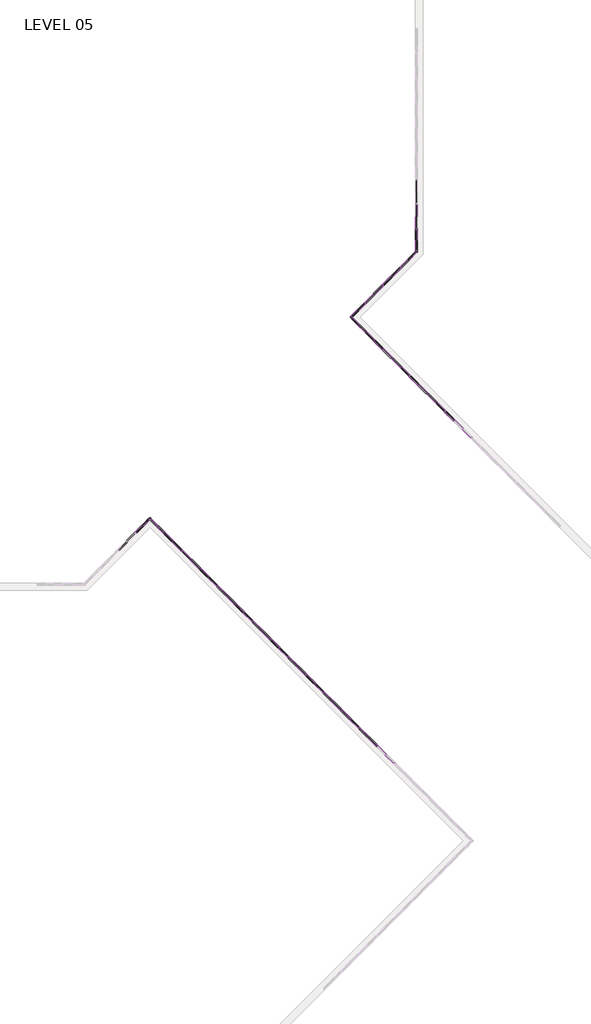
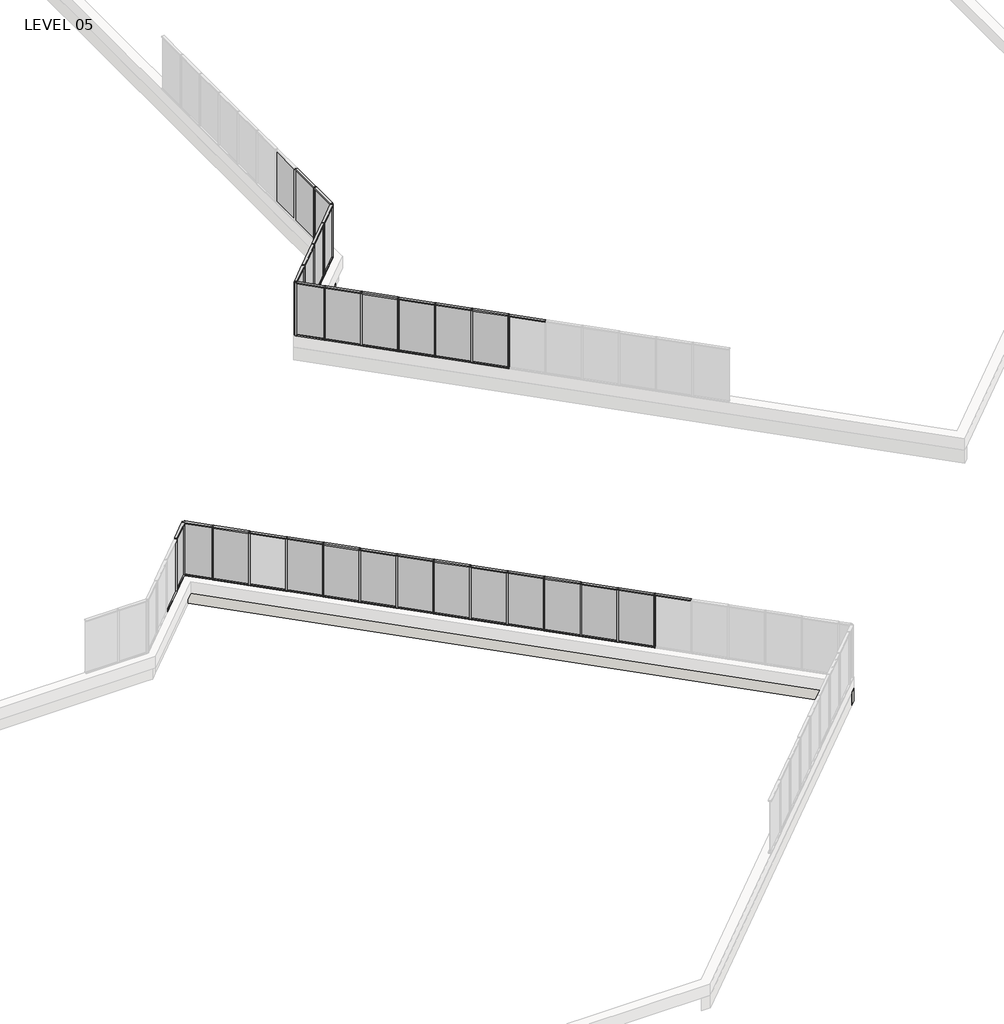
# One storey, part 9 of 17: 84 members, 26 plates, 2 walls.
"""IFC4 building model written with IfcOpenShell, lengths in millimetres."""

from ifc_helpers import new_model, si_unit, frame, origin, place, context, project, spatial, polyline, outline, extrude, faceted_brep, transform, mapped, element, save
from components import member_5247f267, member_e44af9ab, member_800970d4, member_910c08c9, member_dd9f6d43, member_45eb7f2e, plate_67294edd, plate_88df3e37, plate_c3b8b83d, plate_6ecefdb5, plate_9c66726c, plate_129ab9d0

model = new_model("IFC4")

# Units and contexts
model_context = context("Model", 3, world=origin())
ifc_project = project(units=[si_unit("LENGTHUNIT", "METRE", prefix="MILLI")], contexts=[model_context])

# Site, building, storey
site = spatial("IfcSite", under=ifc_project)
building = spatial("IfcBuilding", under=site)
storey = spatial("IfcBuildingStorey", under=building, Name="LEVEL 05", Elevation=15824.2)

# Members
placement = place(None, origin())
member_shape = member_5247f267(model_context)
element("IfcMember", 1, ObjectType="Rectangular Mullion : 2\" x 4.5\" rectangular", at=placement, inside=storey, context=model_context, shape_type="MappedRepresentation", body=[
    mapped(member_shape, transform((58839.186821, 16282.6021867, 15824.2), x_axis=(0.0, 0.0, -1.0), y_axis=(0.707106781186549, 0.7071067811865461, 0.0), z_axis=(0.707106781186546, -0.7071067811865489, 0.0))),
])
element("IfcMember", 2, ObjectType="Rectangular Mullion : 2\" x 4.5\" rectangular", at=placement, inside=storey, context=model_context, shape_type="MappedRepresentation", body=[
    mapped(member_shape, transform((57761.5560865, 17360.2329212, 15824.2), x_axis=(0.0, 0.0, -1.0), y_axis=(0.707106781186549, 0.7071067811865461, 0.0), z_axis=(0.7071067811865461, -0.707106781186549, 0.0))),
])
element("IfcMember", 3, ObjectType="Rectangular Mullion : 2\" x 4.5\" rectangular", at=placement, inside=storey, context=model_context, shape_type="MappedRepresentation", body=[
    mapped(member_shape, transform((56683.925352, 18437.8636558, 15824.2), x_axis=(0.0, 0.0, -1.0), y_axis=(0.707106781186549, 0.7071067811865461, 0.0), z_axis=(0.707106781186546, -0.7071067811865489, 0.0))),
])
element("IfcMember", 4, ObjectType="Rectangular Mullion : 2\" x 4.5\" rectangular", at=placement, inside=storey, context=model_context, shape_type="MappedRepresentation", body=[
    mapped(member_shape, transform((53451.3904937, 21670.3985141, 15824.2), x_axis=(0.0, 0.0, -1.0), y_axis=(0.7071067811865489, 0.7071067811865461, 0.0), z_axis=(0.7071067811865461, -0.7071067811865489, 0.0))),
])
element("IfcMember", 5, ObjectType="Rectangular Mullion : 2\" x 4.5\" rectangular", at=placement, inside=storey, context=model_context, shape_type="MappedRepresentation", body=[
    mapped(member_shape, transform((52373.7597592, 22748.0292486, 15824.2), x_axis=(0.0, 0.0, -1.0), y_axis=(0.7071067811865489, 0.7071067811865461, 0.0), z_axis=(0.7071067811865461, -0.7071067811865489, 0.0))),
])
element("IfcMember", 6, ObjectType="Rectangular Mullion : 2\" x 4.5\" rectangular", at=placement, inside=storey, context=model_context, shape_type="MappedRepresentation", body=[
    mapped(member_shape, transform((51296.1290246, 23825.6599831, 15824.2), x_axis=(0.0, 0.0, -1.0), y_axis=(0.707106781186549, 0.7071067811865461, 0.0), z_axis=(0.707106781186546, -0.7071067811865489, 0.0))),
])
element("IfcMember", 7, ObjectType="Rectangular Mullion : 2\" x 4.5\" rectangular", at=placement, inside=storey, context=model_context, shape_type="MappedRepresentation", body=[
    mapped(member_shape, transform((50218.4982901, 24903.2907176, 15824.2), x_axis=(0.0, 0.0, -1.0), y_axis=(0.707106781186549, 0.7071067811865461, 0.0), z_axis=(0.707106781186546, -0.7071067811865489, 0.0))),
])
element("IfcMember", 8, ObjectType="Rectangular Mullion : 2\" x 4.5\" rectangular", at=placement, inside=storey, context=model_context, shape_type="MappedRepresentation", body=[
    mapped(member_shape, transform((49140.8675556, 25980.9214522, 15824.2), x_axis=(0.0, 0.0, -1.0), y_axis=(0.707106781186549, 0.7071067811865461, 0.0), z_axis=(0.7071067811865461, -0.707106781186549, 0.0))),
])
element("IfcMember", 9, ObjectType="Rectangular Mullion : 2\" x 4.5\" rectangular", at=placement, inside=storey, context=model_context, shape_type="MappedRepresentation", body=[
    mapped(member_shape, transform((48063.236821, 27058.5521867, 15824.2), x_axis=(0.0, 0.0, -1.0), y_axis=(0.7071067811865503, 0.7071067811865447, 0.0), z_axis=(0.7071067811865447, -0.7071067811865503, 0.0))),
])
element("IfcMember", 10, ObjectType="Rectangular Mullion : 2\" x 4.5\" rectangular", at=placement, inside=storey, context=model_context, shape_type="MappedRepresentation", body=[
    mapped(member_shape, transform((46985.6060865, 28136.1829212, 15824.2), x_axis=(0.0, 0.0, -1.0), y_axis=(0.7071067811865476, 0.7071067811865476, 0.0), z_axis=(0.7071067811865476, -0.7071067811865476, 0.0))),
])
element("IfcMember", 11, ObjectType="Rectangular Mullion : 2\" x 4.5\" rectangular", at=placement, inside=storey, context=model_context, shape_type="MappedRepresentation", body=[
    mapped(member_shape, transform((44188.0075145, 29177.8965222, 15824.2), x_axis=(0.0, 0.0, -1.0), y_axis=(-0.7071067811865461, 0.7071067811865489, 0.0), z_axis=(0.7071067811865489, 0.7071067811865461, 0.0))),
])
element("IfcMember", 12, ObjectType="Rectangular Mullion : 2\" x 4.5\" rectangular", at=placement, inside=storey, context=model_context, shape_type="MappedRepresentation", body=[
    mapped(member_shape, transform((58875.1078455, 16246.6811622, 18415.0), x_axis=(0.0, 0.0, 1.0), y_axis=(0.707106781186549, 0.7071067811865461, 0.0), z_axis=(-0.707106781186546, 0.7071067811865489, 0.0))),
])
element("IfcMember", 13, ObjectType="Rectangular Mullion : 2\" x 4.5\" rectangular", at=placement, inside=storey, context=model_context, shape_type="MappedRepresentation", body=[
    mapped(member_shape, transform((57797.477111, 17324.3118967, 18415.0), x_axis=(0.0, 0.0, 1.0), y_axis=(0.707106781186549, 0.7071067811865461, 0.0), z_axis=(-0.707106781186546, 0.7071067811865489, 0.0))),
])
element("IfcMember", 14, ObjectType="Rectangular Mullion : 2\" x 4.5\" rectangular", at=placement, inside=storey, context=model_context, shape_type="MappedRepresentation", body=[
    mapped(member_shape, transform((56719.8463765, 18401.9426313, 18415.0), x_axis=(0.0, 0.0, 1.0), y_axis=(0.7071067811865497, 0.7071067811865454, 0.0), z_axis=(-0.7071067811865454, 0.7071067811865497, 0.0))),
])
element("IfcMember", 15, ObjectType="Rectangular Mullion : 2\" x 4.5\" rectangular", at=placement, inside=storey, context=model_context, shape_type="MappedRepresentation", body=[
    mapped(member_shape, transform((55642.2156419, 19479.5733658, 18415.0), x_axis=(0.0, 0.0, 1.0), y_axis=(0.7071067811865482, 0.7071067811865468, 0.0), z_axis=(-0.7071067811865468, 0.7071067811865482, 0.0))),
])
element("IfcMember", 16, ObjectType="Rectangular Mullion : 2\" x 4.5\" rectangular", at=placement, inside=storey, context=model_context, shape_type="MappedRepresentation", body=[
    mapped(member_shape, transform((52409.6807836, 22712.1082241, 18415.0), x_axis=(0.0, 0.0, 1.0), y_axis=(0.7071067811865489, 0.7071067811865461, 0.0), z_axis=(-0.7071067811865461, 0.7071067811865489, 0.0))),
])
element("IfcMember", 17, ObjectType="Rectangular Mullion : 2\" x 4.5\" rectangular", at=placement, inside=storey, context=model_context, shape_type="MappedRepresentation", body=[
    mapped(member_shape, transform((51332.0500491, 23789.7389586, 18415.0), x_axis=(0.0, 0.0, 1.0), y_axis=(0.7071067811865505, 0.7071067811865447, 0.0), z_axis=(-0.7071067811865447, 0.7071067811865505, 0.0))),
])
element("IfcMember", 18, ObjectType="Rectangular Mullion : 2\" x 4.5\" rectangular", at=placement, inside=storey, context=model_context, shape_type="MappedRepresentation", body=[
    mapped(member_shape, transform((50254.4193146, 24867.3696932, 18415.0), x_axis=(0.0, 0.0, 1.0), y_axis=(0.7071067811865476, 0.7071067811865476, 0.0), z_axis=(-0.7071067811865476, 0.7071067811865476, 0.0))),
])
element("IfcMember", 19, ObjectType="Rectangular Mullion : 2\" x 4.5\" rectangular", at=placement, inside=storey, context=model_context, shape_type="MappedRepresentation", body=[
    mapped(member_shape, transform((49176.7885801, 25945.0004277, 18415.0), x_axis=(0.0, 0.0, 1.0), y_axis=(0.707106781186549, 0.7071067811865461, 0.0), z_axis=(-0.707106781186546, 0.7071067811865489, 0.0))),
])
element("IfcMember", 20, ObjectType="Rectangular Mullion : 2\" x 4.5\" rectangular", at=placement, inside=storey, context=model_context, shape_type="MappedRepresentation", body=[
    mapped(member_shape, transform((48099.1578455, 27022.6311622, 18415.0), x_axis=(0.0, 0.0, 1.0), y_axis=(0.707106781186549, 0.7071067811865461, 0.0), z_axis=(-0.7071067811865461, 0.707106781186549, 0.0))),
])
element("IfcMember", 21, ObjectType="Rectangular Mullion : 2\" x 4.5\" rectangular", at=placement, inside=storey, context=model_context, shape_type="MappedRepresentation", body=[
    mapped(member_shape, transform((47021.527111, 28100.2618967, 18415.0), x_axis=(0.0, 0.0, 1.0), y_axis=(0.7071067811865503, 0.7071067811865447, 0.0), z_axis=(-0.7071067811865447, 0.7071067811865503, 0.0))),
])
element("IfcMember", 22, ObjectType="Rectangular Mullion : 2\" x 4.5\" rectangular", at=placement, inside=storey, context=model_context, shape_type="MappedRepresentation", body=[
    mapped(member_shape, transform((45943.8963765, 29177.8926313, 18415.0), x_axis=(0.0, 0.0, 1.0), y_axis=(0.7071067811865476, 0.7071067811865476, 0.0), z_axis=(-0.7071067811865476, 0.7071067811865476, 0.0))),
])
member_2_shape = member_e44af9ab(model_context)
element("IfcMember", 23, ObjectType="Rectangular Mullion : 2\" x 4.5\" rectangular", at=placement, inside=storey, context=model_context, shape_type="MappedRepresentation", body=[
    mapped(member_2_shape, transform((58857.1473333, 16264.6416745, 15824.2), x_axis=(-0.7071067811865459, 0.7071067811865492, 0.0), y_axis=(0.7071067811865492, 0.7071067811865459, 0.0), z_axis=(0.0, 0.0, -1.0))),
])
element("IfcMember", 24, ObjectType="Rectangular Mullion : 2\" x 4.5\" rectangular", at=placement, inside=storey, context=model_context, shape_type="MappedRepresentation", body=[
    mapped(member_2_shape, transform((57779.5165988, 17342.272409, 15824.2), x_axis=(-0.7071067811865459, 0.7071067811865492, 0.0), y_axis=(0.7071067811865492, 0.7071067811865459, 0.0), z_axis=(0.0, 0.0, -1.0))),
])
element("IfcMember", 25, ObjectType="Rectangular Mullion : 2\" x 4.5\" rectangular", at=placement, inside=storey, context=model_context, shape_type="MappedRepresentation", body=[
    mapped(member_2_shape, transform((56701.8858642, 18419.9031435, 15824.2), x_axis=(-0.7071067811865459, 0.7071067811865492, 0.0), y_axis=(0.7071067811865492, 0.7071067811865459, 0.0), z_axis=(0.0, 0.0, -1.0))),
])
element("IfcMember", 26, ObjectType="Rectangular Mullion : 2\" x 4.5\" rectangular", at=placement, inside=storey, context=model_context, shape_type="MappedRepresentation", body=[
    mapped(member_2_shape, transform((55624.2551297, 19497.533878, 15824.2), x_axis=(-0.7071067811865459, 0.7071067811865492, 0.0), y_axis=(0.7071067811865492, 0.7071067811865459, 0.0), z_axis=(0.0, 0.0, -1.0))),
])
element("IfcMember", 27, ObjectType="Rectangular Mullion : 2\" x 4.5\" rectangular", at=placement, inside=storey, context=model_context, shape_type="MappedRepresentation", body=[
    mapped(member_2_shape, transform((53469.3510059, 21652.4380018, 15824.2), x_axis=(-0.7071067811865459, 0.7071067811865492, 0.0), y_axis=(0.7071067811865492, 0.7071067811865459, 0.0), z_axis=(0.0, 0.0, -1.0))),
])
element("IfcMember", 28, ObjectType="Rectangular Mullion : 2\" x 4.5\" rectangular", at=placement, inside=storey, context=model_context, shape_type="MappedRepresentation", body=[
    mapped(member_2_shape, transform((52391.7202714, 22730.0687363, 15824.2), x_axis=(-0.7071067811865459, 0.7071067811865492, 0.0), y_axis=(0.7071067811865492, 0.7071067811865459, 0.0), z_axis=(0.0, 0.0, -1.0))),
])
element("IfcMember", 29, ObjectType="Rectangular Mullion : 2\" x 4.5\" rectangular", at=placement, inside=storey, context=model_context, shape_type="MappedRepresentation", body=[
    mapped(member_2_shape, transform((51314.0895369, 23807.6994709, 15824.2), x_axis=(-0.7071067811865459, 0.7071067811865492, 0.0), y_axis=(0.7071067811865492, 0.7071067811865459, 0.0), z_axis=(0.0, 0.0, -1.0))),
])
element("IfcMember", 30, ObjectType="Rectangular Mullion : 2\" x 4.5\" rectangular", at=placement, inside=storey, context=model_context, shape_type="MappedRepresentation", body=[
    mapped(member_2_shape, transform((54546.8030678, 20574.9859399, 15824.2), x_axis=(-0.7071067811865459, 0.7071067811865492, 0.0), y_axis=(0.7071067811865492, 0.7071067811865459, 0.0), z_axis=(0.0, 0.0, -1.0))),
])
element("IfcMember", 31, ObjectType="Rectangular Mullion : 2\" x 4.5\" rectangular", at=placement, inside=storey, context=model_context, shape_type="MappedRepresentation", body=[
    mapped(member_2_shape, transform((50236.4588023, 24885.3302054, 15824.2), x_axis=(-0.7071067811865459, 0.7071067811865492, 0.0), y_axis=(0.7071067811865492, 0.7071067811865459, 0.0), z_axis=(0.0, 0.0, -1.0))),
])
element("IfcMember", 32, ObjectType="Rectangular Mullion : 2\" x 4.5\" rectangular", at=placement, inside=storey, context=model_context, shape_type="MappedRepresentation", body=[
    mapped(member_2_shape, transform((49158.8280678, 25962.9609399, 15824.2), x_axis=(-0.7071067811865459, 0.7071067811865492, 0.0), y_axis=(0.7071067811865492, 0.7071067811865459, 0.0), z_axis=(0.0, 0.0, -1.0))),
])
element("IfcMember", 33, ObjectType="Rectangular Mullion : 2\" x 4.5\" rectangular", at=placement, inside=storey, context=model_context, shape_type="MappedRepresentation", body=[
    mapped(member_2_shape, transform((48081.1973333, 27040.5916745, 15824.2), x_axis=(-0.7071067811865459, 0.7071067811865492, 0.0), y_axis=(0.7071067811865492, 0.7071067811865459, 0.0), z_axis=(0.0, 0.0, -1.0))),
])
element("IfcMember", 34, ObjectType="Rectangular Mullion : 2\" x 4.5\" rectangular", at=placement, inside=storey, context=model_context, shape_type="MappedRepresentation", body=[
    mapped(member_2_shape, transform((47003.5665988, 28118.222409, 15824.2), x_axis=(-0.7071067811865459, 0.7071067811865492, 0.0), y_axis=(0.7071067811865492, 0.7071067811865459, 0.0), z_axis=(0.0, 0.0, -1.0))),
])
element("IfcMember", 35, ObjectType="Rectangular Mullion : 2\" x 4.5\" rectangular", at=placement, inside=storey, context=model_context, shape_type="MappedRepresentation", body=[
    mapped(member_2_shape, transform((45925.9358642, 29195.8531435, 15824.2), x_axis=(-0.7071067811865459, 0.7071067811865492, 0.0), y_axis=(0.7071067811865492, 0.7071067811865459, 0.0), z_axis=(0.0, 0.0, -1.0))),
])
element("IfcMember", 36, ObjectType="Rectangular Mullion : 2\" x 4.5\" rectangular", at=placement, inside=storey, context=model_context, shape_type="MappedRepresentation", body=[
    mapped(member_2_shape, transform((44205.9680267, 29195.8570344, 15824.2), x_axis=(-0.7071067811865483, -0.7071067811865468, 0.0), y_axis=(-0.7071067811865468, 0.7071067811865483, 0.0), z_axis=(0.0, 0.0, -1.0))),
])
member_3_shape = member_800970d4(model_context)
element("IfcMember", 37, ObjectType="Rectangular Mullion : 2\" x 4.5\" rectangular", at=placement, inside=storey, context=model_context, shape_type="MappedRepresentation", body=[
    mapped(member_3_shape, transform((45065.95, 30055.8390077, 15824.2), x_axis=(-0.7071067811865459, 0.7071067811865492, 0.0), y_axis=(0.7071067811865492, 0.7071067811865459, 0.0), z_axis=(0.0, 0.0, -1.0))),
])
element("IfcMember", 38, ObjectType="Rectangular Mullion : 2\" x 4.5\" rectangular", at=placement, inside=storey, context=model_context, shape_type="MappedRepresentation", body=[
    mapped(member_3_shape, transform((45065.95, 30055.8390077, 18415.0), x_axis=(0.7071067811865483, 0.7071067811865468, 0.0), y_axis=(-0.7071067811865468, 0.7071067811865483, 0.0), z_axis=(0.0, 0.0, 1.0))),
])
member_4_shape = member_910c08c9(model_context)
element("IfcMember", 39, ObjectType="Rectangular Mullion : 2\" x 4.5\" rectangular", at=placement, inside=storey, context=model_context, shape_type="MappedRepresentation", body=[
    mapped(member_4_shape, transform((53487.3115182, 21634.4774896, 18415.0), x_axis=(0.0, 0.0, 1.0), y_axis=(0.707106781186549, 0.7071067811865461, 0.0), z_axis=(-0.7071067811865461, 0.707106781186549, 0.0))),
])
element("IfcMember", 40, ObjectType="Rectangular Mullion : 2\" x 4.5\" rectangular", at=placement, inside=storey, context=model_context, shape_type="MappedRepresentation", body=[
    mapped(member_4_shape, transform((54564.7635801, 20557.0254277, 18415.0), x_axis=(0.0, 0.0, 1.0), y_axis=(0.7071067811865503, 0.7071067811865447, 0.0), z_axis=(-0.7071067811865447, 0.7071067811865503, 0.0))),
])
element("IfcMember", 41, ObjectType="Rectangular Mullion : 2\" x 4.5\" rectangular", at=placement, inside=storey, context=model_context, shape_type="MappedRepresentation", body=[
    mapped(member_4_shape, transform((55606.2946175, 19515.4943903, 15824.2), x_axis=(0.0, 0.0, -1.0), y_axis=(0.7071067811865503, 0.7071067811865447, 0.0), z_axis=(0.7071067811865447, -0.7071067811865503, 0.0))),
])
element("IfcMember", 42, ObjectType="Rectangular Mullion : 2\" x 4.5\" rectangular", at=placement, inside=storey, context=model_context, shape_type="MappedRepresentation", body=[
    mapped(member_4_shape, transform((54528.8425556, 20592.9464522, 15824.2), x_axis=(0.0, 0.0, -1.0), y_axis=(0.707106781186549, 0.7071067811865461, 0.0), z_axis=(0.7071067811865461, -0.707106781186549, 0.0))),
])
member_5_shape = member_dd9f6d43(model_context)
element("IfcMember", 43, ObjectType="Rectangular Mullion : 2\" x 4.5\" rectangular", at=placement, inside=storey, context=model_context, shape_type="MappedRepresentation", body=[
    mapped(member_5_shape, transform((45101.8710245, 30019.9179833, 18415.0), x_axis=(0.0, 0.0, 1.0), y_axis=(0.7071067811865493, 0.7071067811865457, 0.0), z_axis=(-0.7071067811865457, 0.7071067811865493, 0.0))),
])
element("IfcMember", 44, ObjectType="Rectangular Mullion : 2\" x 4.5\" rectangular", at=placement, inside=storey, context=model_context, shape_type="MappedRepresentation", body=[
    mapped(member_5_shape, transform((44223.9285389, 29213.8175467, 18415.0), x_axis=(0.0, 0.0, 1.0), y_axis=(-0.7071067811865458, 0.7071067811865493, 0.0), z_axis=(-0.7071067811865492, -0.7071067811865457, 0.0))),
])
element("IfcMember", 45, ObjectType="Rectangular Mullion : 2\" x 4.5\" rectangular", at=placement, inside=storey, context=model_context, shape_type="MappedRepresentation", body=[
    mapped(member_5_shape, transform((45907.975352, 29213.8136558, 15824.2), x_axis=(0.0, 0.0, -1.0), y_axis=(0.7071067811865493, 0.7071067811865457, 0.0), z_axis=(0.7071067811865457, -0.7071067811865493, 0.0))),
])
element("IfcMember", 46, ObjectType="Rectangular Mullion : 2\" x 4.5\" rectangular", at=placement, inside=storey, context=model_context, shape_type="MappedRepresentation", body=[
    mapped(member_5_shape, transform((45030.0289755, 30019.9179833, 15824.2), x_axis=(0.0, 0.0, -1.0), y_axis=(-0.7071067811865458, 0.7071067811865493, 0.0), z_axis=(0.7071067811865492, 0.7071067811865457, 0.0))),
])
element("IfcMember", 47, ObjectType="Rectangular Mullion : 2\" x 4.5\" rectangular", at=placement, inside=storey, context=model_context, shape_type="MappedRepresentation", body=[
    mapped(member_shape, transform((63554.1786299, 36011.8675394, 18415.0), x_axis=(0.0, 0.0, 1.0), y_axis=(0.7071067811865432, 0.7071067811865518, 0.0), z_axis=(-0.7071067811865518, 0.7071067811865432, 0.0))),
])
element("IfcMember", 48, ObjectType="Rectangular Mullion : 2\" x 4.5\" rectangular", at=placement, inside=storey, context=model_context, shape_type="MappedRepresentation", body=[
    mapped(member_shape, transform((62476.5478954, 37089.4982739, 18415.0), x_axis=(0.0, 0.0, 1.0), y_axis=(0.7071067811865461, 0.7071067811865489, 0.0), z_axis=(-0.7071067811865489, 0.7071067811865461, 0.0))),
])
element("IfcMember", 49, ObjectType="Rectangular Mullion : 2\" x 4.5\" rectangular", at=placement, inside=storey, context=model_context, shape_type="MappedRepresentation", body=[
    mapped(member_shape, transform((61398.9171608, 38167.1290085, 18415.0), x_axis=(0.0, 0.0, 1.0), y_axis=(0.7071067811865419, 0.7071067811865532, 0.0), z_axis=(-0.7071067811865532, 0.7071067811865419, 0.0))),
])
element("IfcMember", 50, ObjectType="Rectangular Mullion : 2\" x 4.5\" rectangular", at=placement, inside=storey, context=model_context, shape_type="MappedRepresentation", body=[
    mapped(member_shape, transform((60321.2864263, 39244.759743, 18415.0), x_axis=(0.0, 0.0, 1.0), y_axis=(0.7071067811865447, 0.7071067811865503, 0.0), z_axis=(-0.7071067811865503, 0.7071067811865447, 0.0))),
])
element("IfcMember", 51, ObjectType="Rectangular Mullion : 2\" x 4.5\" rectangular", at=placement, inside=storey, context=model_context, shape_type="MappedRepresentation", body=[
    mapped(member_shape, transform((59243.6556918, 40322.3904775, 18415.0), x_axis=(0.0, 0.0, 1.0), y_axis=(0.7071067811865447, 0.7071067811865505, 0.0), z_axis=(-0.7071067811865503, 0.7071067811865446, 0.0))),
])
element("IfcMember", 52, ObjectType="Rectangular Mullion : 2\" x 4.5\" rectangular", at=placement, inside=storey, context=model_context, shape_type="MappedRepresentation", body=[
    mapped(member_shape, transform((58166.0249572, 41400.021212, 18415.0), x_axis=(0.0, 0.0, 1.0), y_axis=(0.7071067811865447, 0.7071067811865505, 0.0), z_axis=(-0.7071067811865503, 0.7071067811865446, 0.0))),
])
element("IfcMember", 53, ObjectType="Rectangular Mullion : 2\" x 4.5\" rectangular", at=placement, inside=storey, context=model_context, shape_type="MappedRepresentation", body=[
    mapped(member_shape, transform((60285.3615109, 45275.2505186, 18415.0), x_axis=(0.0, 0.0, 1.0), y_axis=(0.7071067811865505, -0.7071067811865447, 0.0), z_axis=(0.7071067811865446, 0.7071067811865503, 0.0))),
])
element("IfcMember", 54, ObjectType="Rectangular Mullion : 2\" x 4.5\" rectangular", at=placement, inside=storey, context=model_context, shape_type="MappedRepresentation", body=[
    mapped(member_shape, transform((59207.7307764, 44197.6197841, 18415.0), x_axis=(0.0, 0.0, 1.0), y_axis=(0.7071067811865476, -0.7071067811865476, 0.0), z_axis=(0.7071067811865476, 0.7071067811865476, 0.0))),
])
element("IfcMember", 55, ObjectType="Rectangular Mullion : 2\" x 4.5\" rectangular", at=placement, inside=storey, context=model_context, shape_type="MappedRepresentation", body=[
    mapped(member_shape, transform((61263.7847164, 47637.3675885, 18415.0), x_axis=(0.0, 0.0, 1.0), y_axis=(-1.0, 0.0, 0.0), z_axis=(0.0, -1.0, 0.0))),
])
element("IfcMember", 56, ObjectType="Rectangular Mullion : 2\" x 4.5\" rectangular", at=placement, inside=storey, context=model_context, shape_type="MappedRepresentation", body=[
    mapped(member_shape, transform((63518.2576054, 36047.7885639, 15824.2), x_axis=(0.0, 0.0, -1.0), y_axis=(0.7071067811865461, 0.7071067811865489, 0.0), z_axis=(0.7071067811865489, -0.7071067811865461, 0.0))),
])
element("IfcMember", 57, ObjectType="Rectangular Mullion : 2\" x 4.5\" rectangular", at=placement, inside=storey, context=model_context, shape_type="MappedRepresentation", body=[
    mapped(member_shape, transform((62440.6268709, 37125.4192984, 15824.2), x_axis=(0.0, 0.0, -1.0), y_axis=(0.7071067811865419, 0.7071067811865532, 0.0), z_axis=(0.7071067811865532, -0.7071067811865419, 0.0))),
])
element("IfcMember", 58, ObjectType="Rectangular Mullion : 2\" x 4.5\" rectangular", at=placement, inside=storey, context=model_context, shape_type="MappedRepresentation", body=[
    mapped(member_shape, transform((61362.9961363, 38203.0500329, 15824.2), x_axis=(0.0, 0.0, -1.0), y_axis=(0.7071067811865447, 0.7071067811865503, 0.0), z_axis=(0.7071067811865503, -0.7071067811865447, 0.0))),
])
element("IfcMember", 59, ObjectType="Rectangular Mullion : 2\" x 4.5\" rectangular", at=placement, inside=storey, context=model_context, shape_type="MappedRepresentation", body=[
    mapped(member_shape, transform((60285.3654018, 39280.6807675, 15824.2), x_axis=(0.0, 0.0, -1.0), y_axis=(0.7071067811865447, 0.7071067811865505, 0.0), z_axis=(0.7071067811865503, -0.7071067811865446, 0.0))),
])
element("IfcMember", 60, ObjectType="Rectangular Mullion : 2\" x 4.5\" rectangular", at=placement, inside=storey, context=model_context, shape_type="MappedRepresentation", body=[
    mapped(member_shape, transform((59207.7346673, 40358.311502, 15824.2), x_axis=(0.0, 0.0, -1.0), y_axis=(0.7071067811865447, 0.7071067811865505, 0.0), z_axis=(0.7071067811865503, -0.7071067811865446, 0.0))),
])
element("IfcMember", 61, ObjectType="Rectangular Mullion : 2\" x 4.5\" rectangular", at=placement, inside=storey, context=model_context, shape_type="MappedRepresentation", body=[
    mapped(member_shape, transform((58166.0210663, 43155.9100741, 15824.2), x_axis=(0.0, 0.0, -1.0), y_axis=(0.7071067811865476, -0.7071067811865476, 0.0), z_axis=(-0.7071067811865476, -0.7071067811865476, 0.0))),
])
element("IfcMember", 62, ObjectType="Rectangular Mullion : 2\" x 4.5\" rectangular", at=placement, inside=storey, context=model_context, shape_type="MappedRepresentation", body=[
    mapped(member_shape, transform((59243.6518008, 44233.5408086, 15824.2), x_axis=(0.0, 0.0, -1.0), y_axis=(0.7071067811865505, -0.7071067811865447, 0.0), z_axis=(-0.7071067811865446, -0.7071067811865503, 0.0))),
])
element("IfcMember", 63, ObjectType="Rectangular Mullion : 2\" x 4.5\" rectangular", at=placement, inside=storey, context=model_context, shape_type="MappedRepresentation", body=[
    mapped(member_2_shape, transform((63536.2181176, 36029.8280517, 15824.2), x_axis=(-0.7071067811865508, 0.7071067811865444, 0.0), y_axis=(0.7071067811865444, 0.7071067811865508, 0.0), z_axis=(0.0, 0.0, -1.0))),
])
element("IfcMember", 64, ObjectType="Rectangular Mullion : 2\" x 4.5\" rectangular", at=placement, inside=storey, context=model_context, shape_type="MappedRepresentation", body=[
    mapped(member_2_shape, transform((62458.5873831, 37107.4587862, 15824.2), x_axis=(-0.7071067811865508, 0.7071067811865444, 0.0), y_axis=(0.7071067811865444, 0.7071067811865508, 0.0), z_axis=(0.0, 0.0, -1.0))),
])
element("IfcMember", 65, ObjectType="Rectangular Mullion : 2\" x 4.5\" rectangular", at=placement, inside=storey, context=model_context, shape_type="MappedRepresentation", body=[
    mapped(member_2_shape, transform((61380.9566486, 38185.0895207, 15824.2), x_axis=(-0.7071067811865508, 0.7071067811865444, 0.0), y_axis=(0.7071067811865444, 0.7071067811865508, 0.0), z_axis=(0.0, 0.0, -1.0))),
])
element("IfcMember", 66, ObjectType="Rectangular Mullion : 2\" x 4.5\" rectangular", at=placement, inside=storey, context=model_context, shape_type="MappedRepresentation", body=[
    mapped(member_2_shape, transform((60303.3259141, 39262.7202552, 15824.2), x_axis=(-0.7071067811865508, 0.7071067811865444, 0.0), y_axis=(0.7071067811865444, 0.7071067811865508, 0.0), z_axis=(0.0, 0.0, -1.0))),
])
element("IfcMember", 67, ObjectType="Rectangular Mullion : 2\" x 4.5\" rectangular", at=placement, inside=storey, context=model_context, shape_type="MappedRepresentation", body=[
    mapped(member_2_shape, transform((59225.6951795, 40340.3509898, 15824.2), x_axis=(-0.7071067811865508, 0.7071067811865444, 0.0), y_axis=(0.7071067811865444, 0.7071067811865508, 0.0), z_axis=(0.0, 0.0, -1.0))),
])
element("IfcMember", 68, ObjectType="Rectangular Mullion : 2\" x 4.5\" rectangular", at=placement, inside=storey, context=model_context, shape_type="MappedRepresentation", body=[
    mapped(member_2_shape, transform((58148.064445, 41417.9817243, 15824.2), x_axis=(-0.7071067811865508, 0.7071067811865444, 0.0), y_axis=(0.7071067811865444, 0.7071067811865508, 0.0), z_axis=(0.0, 0.0, -1.0))),
])
element("IfcMember", 69, ObjectType="Rectangular Mullion : 2\" x 4.5\" rectangular", at=placement, inside=storey, context=model_context, shape_type="MappedRepresentation", body=[
    mapped(member_2_shape, transform((58148.0605541, 43137.9495618, 15824.2), x_axis=(0.7071067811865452, 0.7071067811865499, 0.0), y_axis=(0.7071067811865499, -0.7071067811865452, 0.0), z_axis=(0.0, 0.0, -1.0))),
])
element("IfcMember", 70, ObjectType="Rectangular Mullion : 2\" x 4.5\" rectangular", at=placement, inside=storey, context=model_context, shape_type="MappedRepresentation", body=[
    mapped(member_2_shape, transform((60303.3220231, 45293.2110309, 15824.2), x_axis=(0.7071067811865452, 0.7071067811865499, 0.0), y_axis=(0.7071067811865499, -0.7071067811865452, 0.0), z_axis=(0.0, 0.0, -1.0))),
])
element("IfcMember", 71, ObjectType="Rectangular Mullion : 2\" x 4.5\" rectangular", at=placement, inside=storey, context=model_context, shape_type="MappedRepresentation", body=[
    mapped(member_2_shape, transform((59225.6912886, 44215.5802963, 15824.2), x_axis=(0.7071067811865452, 0.7071067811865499, 0.0), y_axis=(0.7071067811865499, -0.7071067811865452, 0.0), z_axis=(0.0, 0.0, -1.0))),
])
element("IfcMember", 72, ObjectType="Rectangular Mullion : 2\" x 4.5\" rectangular", at=placement, inside=storey, context=model_context, shape_type="MappedRepresentation", body=[
    mapped(member_2_shape, transform((61263.7847164, 47611.9675885, 15824.2), x_axis=(0.0, -1.0, 0.0), y_axis=(-1.0, 0.0, 0.0), z_axis=(0.0, 0.0, -1.0))),
])
element("IfcMember", 73, ObjectType="Rectangular Mullion : 2\" x 4.5\" rectangular", at=placement, inside=storey, context=model_context, shape_type="MappedRepresentation", body=[
    mapped(member_3_shape, transform((57288.0785808, 42277.9675885, 15824.2), x_axis=(-0.7071067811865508, 0.7071067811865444, 0.0), y_axis=(0.7071067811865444, 0.7071067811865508, 0.0), z_axis=(0.0, 0.0, -1.0))),
])
element("IfcMember", 74, ObjectType="Rectangular Mullion : 2\" x 4.5\" rectangular", at=placement, inside=storey, context=model_context, shape_type="MappedRepresentation", body=[
    mapped(member_3_shape, transform((61263.7847164, 46253.6737241, 15824.2), x_axis=(0.7071067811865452, 0.7071067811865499, 0.0), y_axis=(0.7071067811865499, -0.7071067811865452, 0.0), z_axis=(0.0, 0.0, -1.0))),
])
element("IfcMember", 75, ObjectType="Rectangular Mullion : 2\" x 4.5\" rectangular", at=placement, inside=storey, context=model_context, shape_type="MappedRepresentation", body=[
    mapped(member_3_shape, transform((61263.7847164, 46253.6737241, 15824.2), x_axis=(0.0, -1.0, 0.0), y_axis=(-1.0, 0.0, 0.0), z_axis=(0.0, 0.0, -1.0))),
])
element("IfcMember", 76, ObjectType="Rectangular Mullion : 2\" x 4.5\" rectangular", at=placement, inside=storey, context=model_context, shape_type="MappedRepresentation", body=[
    mapped(member_3_shape, transform((57288.0785808, 42277.9675885, 18415.0), x_axis=(-0.7071067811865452, -0.7071067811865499, 0.0), y_axis=(0.7071067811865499, -0.7071067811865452, 0.0), z_axis=(0.0, 0.0, 1.0))),
])
member_6_shape = member_45eb7f2e(model_context)
element("IfcMember", 77, ObjectType="Rectangular Mullion : 2\" x 4.5\" rectangular", at=placement, inside=storey, context=model_context, shape_type="MappedRepresentation", body=[
    mapped(member_6_shape, transform((61227.8636919, 46217.7526997, 18415.0), x_axis=(0.0, 0.0, 1.0), y_axis=(0.7071067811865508, -0.7071067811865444, 0.0), z_axis=(0.7071067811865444, 0.7071067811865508, 0.0))),
])
element("IfcMember", 78, ObjectType="Rectangular Mullion : 2\" x 4.5\" rectangular", at=placement, inside=storey, context=model_context, shape_type="MappedRepresentation", body=[
    mapped(member_6_shape, transform((61263.7847164, 46304.4737241, 18415.0), x_axis=(0.0, 0.0, 1.0), y_axis=(-1.0, 0.0, 0.0), z_axis=(0.0, -1.0, 0.0))),
])
element("IfcMember", 79, ObjectType="Rectangular Mullion : 2\" x 4.5\" rectangular", at=placement, inside=storey, context=model_context, shape_type="MappedRepresentation", body=[
    mapped(member_6_shape, transform((60321.2825354, 45311.1715431, 15824.2), x_axis=(0.0, 0.0, -1.0), y_axis=(0.7071067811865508, -0.7071067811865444, 0.0), z_axis=(-0.7071067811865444, -0.7071067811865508, 0.0))),
])
element("IfcMember", 80, ObjectType="Rectangular Mullion : 2\" x 4.5\" rectangular", at=placement, inside=storey, context=model_context, shape_type="MappedRepresentation", body=[
    mapped(member_6_shape, transform((61263.7847164, 47586.5675885, 15824.2), x_axis=(0.0, 0.0, -1.0), y_axis=(-1.0, 0.0, 0.0), z_axis=(0.0, 1.0, 0.0))),
])
element("IfcMember", 81, ObjectType="Rectangular Mullion : 2\" x 4.5\" rectangular", at=placement, inside=storey, context=model_context, shape_type="MappedRepresentation", body=[
    mapped(member_5_shape, transform((57323.9996053, 42242.046564, 18415.0), x_axis=(0.0, 0.0, 1.0), y_axis=(0.707106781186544, 0.7071067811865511, 0.0), z_axis=(-0.707106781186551, 0.7071067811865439, 0.0))),
])
element("IfcMember", 82, ObjectType="Rectangular Mullion : 2\" x 4.5\" rectangular", at=placement, inside=storey, context=model_context, shape_type="MappedRepresentation", body=[
    mapped(member_5_shape, transform((58130.1000418, 43119.9890496, 18415.0), x_axis=(0.0, 0.0, 1.0), y_axis=(0.7071067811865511, -0.707106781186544, 0.0), z_axis=(0.707106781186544, 0.7071067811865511, 0.0))),
])
element("IfcMember", 83, ObjectType="Rectangular Mullion : 2\" x 4.5\" rectangular", at=placement, inside=storey, context=model_context, shape_type="MappedRepresentation", body=[
    mapped(member_5_shape, transform((58130.1039328, 41435.9422365, 15824.2), x_axis=(0.0, 0.0, -1.0), y_axis=(0.707106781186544, 0.7071067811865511, 0.0), z_axis=(0.707106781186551, -0.7071067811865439, 0.0))),
])
element("IfcMember", 84, ObjectType="Rectangular Mullion : 2\" x 4.5\" rectangular", at=placement, inside=storey, context=model_context, shape_type="MappedRepresentation", body=[
    mapped(member_5_shape, transform((57323.9996053, 42313.888613, 15824.2), x_axis=(0.0, 0.0, -1.0), y_axis=(0.7071067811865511, -0.707106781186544, 0.0), z_axis=(-0.707106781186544, -0.7071067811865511, 0.0))),
])

# Plates
plate_shape = plate_67294edd(model_context)
element("IfcPlate", 85, ObjectType="System Panel : 1/4\" Glass", at=placement, inside=storey, context=model_context, shape_type="MappedRepresentation", body=[
    mapped(plate_shape, transform((58318.331966, 16803.4570417, 15875.0), x_axis=(-0.7071067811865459, 0.7071067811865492, 0.0), y_axis=(-0.7071067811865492, -0.7071067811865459, 0.0), z_axis=(0.0, 0.0, 1.0))),
])
element("IfcPlate", 86, ObjectType="System Panel : 1/4\" Glass", at=placement, inside=storey, context=model_context, shape_type="MappedRepresentation", body=[
    mapped(plate_shape, transform((57240.7012315, 17881.0877763, 15875.0), x_axis=(-0.7071067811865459, 0.7071067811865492, 0.0), y_axis=(-0.7071067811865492, -0.7071067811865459, 0.0), z_axis=(0.0, 0.0, 1.0))),
])
element("IfcPlate", 87, ObjectType="System Panel : 1/4\" Glass", at=placement, inside=storey, context=model_context, shape_type="MappedRepresentation", body=[
    mapped(plate_shape, transform((56163.070497, 18958.7185108, 15875.0), x_axis=(-0.7071067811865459, 0.7071067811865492, 0.0), y_axis=(-0.7071067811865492, -0.7071067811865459, 0.0), z_axis=(0.0, 0.0, 1.0))),
])
element("IfcPlate", 88, ObjectType="System Panel : 1/4\" Glass", at=placement, inside=storey, context=model_context, shape_type="MappedRepresentation", body=[
    mapped(plate_shape, transform((52930.5356387, 22191.2533691, 15875.0), x_axis=(-0.7071067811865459, 0.7071067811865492, 0.0), y_axis=(-0.7071067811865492, -0.7071067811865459, 0.0), z_axis=(0.0, 0.0, 1.0))),
])
element("IfcPlate", 89, ObjectType="System Panel : 1/4\" Glass", at=placement, inside=storey, context=model_context, shape_type="MappedRepresentation", body=[
    mapped(plate_shape, transform((51852.9049041, 23268.8841036, 15875.0), x_axis=(-0.7071067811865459, 0.7071067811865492, 0.0), y_axis=(-0.7071067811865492, -0.7071067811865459, 0.0), z_axis=(0.0, 0.0, 1.0))),
])
element("IfcPlate", 90, ObjectType="System Panel : 1/4\" Glass", at=placement, inside=storey, context=model_context, shape_type="MappedRepresentation", body=[
    mapped(plate_shape, transform((50775.2741696, 24346.5148381, 15875.0), x_axis=(-0.7071067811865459, 0.7071067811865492, 0.0), y_axis=(-0.7071067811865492, -0.7071067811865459, 0.0), z_axis=(0.0, 0.0, 1.0))),
])
element("IfcPlate", 91, ObjectType="System Panel : 1/4\" Glass", at=placement, inside=storey, context=model_context, shape_type="MappedRepresentation", body=[
    mapped(plate_shape, transform((49697.6434351, 25424.1455727, 15875.0), x_axis=(-0.7071067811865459, 0.7071067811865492, 0.0), y_axis=(-0.7071067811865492, -0.7071067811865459, 0.0), z_axis=(0.0, 0.0, 1.0))),
])
element("IfcPlate", 92, ObjectType="System Panel : 1/4\" Glass", at=placement, inside=storey, context=model_context, shape_type="MappedRepresentation", body=[
    mapped(plate_shape, transform((48620.0127005, 26501.7763072, 15875.0), x_axis=(-0.7071067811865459, 0.7071067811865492, 0.0), y_axis=(-0.7071067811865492, -0.7071067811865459, 0.0), z_axis=(0.0, 0.0, 1.0))),
])
element("IfcPlate", 93, ObjectType="System Panel : 1/4\" Glass", at=placement, inside=storey, context=model_context, shape_type="MappedRepresentation", body=[
    mapped(plate_shape, transform((46464.7512315, 28657.0377763, 15875.0), x_axis=(-0.7071067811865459, 0.7071067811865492, 0.0), y_axis=(-0.7071067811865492, -0.7071067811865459, 0.0), z_axis=(0.0, 0.0, 1.0))),
])
plate_2_shape = plate_88df3e37(model_context)
element("IfcPlate", 94, ObjectType="System Panel : 1/4\" Glass", at=placement, inside=storey, context=model_context, shape_type="MappedRepresentation", body=[
    mapped(plate_2_shape, transform((55085.5290988, 20036.259909, 15875.0), x_axis=(-0.7071067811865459, 0.7071067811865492, 0.0), y_axis=(-0.7071067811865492, -0.7071067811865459, 0.0), z_axis=(0.0, 0.0, 1.0))),
])
element("IfcPlate", 95, ObjectType="System Panel : 1/4\" Glass", at=placement, inside=storey, context=model_context, shape_type="MappedRepresentation", body=[
    mapped(plate_2_shape, transform((54008.0770369, 21113.7119709, 15875.0), x_axis=(-0.7071067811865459, 0.7071067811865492, 0.0), y_axis=(-0.7071067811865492, -0.7071067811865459, 0.0), z_axis=(0.0, 0.0, 1.0))),
])
plate_3_shape = plate_c3b8b83d(model_context)
element("IfcPlate", 96, ObjectType="System Panel : 1/4\" Glass", at=placement, inside=storey, context=model_context, shape_type="MappedRepresentation", body=[
    mapped(plate_3_shape, transform((45504.9231882, 29616.8658195, 15875.0), x_axis=(-0.7071067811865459, 0.7071067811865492, 0.0), y_axis=(-0.7071067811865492, -0.7071067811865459, 0.0), z_axis=(0.0, 0.0, 1.0))),
])
plate_4_shape = plate_6ecefdb5(model_context)
element("IfcPlate", 97, ObjectType="System Panel : 1/4\" Glass", at=placement, inside=storey, context=model_context, shape_type="MappedRepresentation", body=[
    mapped(plate_4_shape, transform((44626.9787572, 29616.867765, 15875.0), x_axis=(-0.7071067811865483, -0.7071067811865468, 0.0), y_axis=(0.7071067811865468, -0.7071067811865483, 0.0), z_axis=(0.0, 0.0, 1.0))),
])
element("IfcPlate", 98, ObjectType="System Panel : 1/4\" Glass", at=placement, inside=storey, context=model_context, shape_type="MappedRepresentation", body=[
    mapped(plate_shape, transform((62997.4027504, 36568.6434189, 15875.0), x_axis=(-0.7071067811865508, 0.7071067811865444, 0.0), y_axis=(-0.7071067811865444, -0.7071067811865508, 0.0), z_axis=(0.0, 0.0, 1.0))),
])
element("IfcPlate", 99, ObjectType="System Panel : 1/4\" Glass", at=placement, inside=storey, context=model_context, shape_type="MappedRepresentation", body=[
    mapped(plate_shape, transform((61919.7720159, 37646.2741534, 15875.0), x_axis=(-0.7071067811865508, 0.7071067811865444, 0.0), y_axis=(-0.7071067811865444, -0.7071067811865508, 0.0), z_axis=(0.0, 0.0, 1.0))),
])
element("IfcPlate", 100, ObjectType="System Panel : 1/4\" Glass", at=placement, inside=storey, context=model_context, shape_type="MappedRepresentation", body=[
    mapped(plate_shape, transform((60842.1412813, 38723.904888, 15875.0), x_axis=(-0.7071067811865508, 0.7071067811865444, 0.0), y_axis=(-0.7071067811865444, -0.7071067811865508, 0.0), z_axis=(0.0, 0.0, 1.0))),
])
element("IfcPlate", 101, ObjectType="System Panel : 1/4\" Glass", at=placement, inside=storey, context=model_context, shape_type="MappedRepresentation", body=[
    mapped(plate_shape, transform((59764.5105468, 39801.5356225, 15875.0), x_axis=(-0.7071067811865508, 0.7071067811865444, 0.0), y_axis=(-0.7071067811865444, -0.7071067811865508, 0.0), z_axis=(0.0, 0.0, 1.0))),
])
element("IfcPlate", 102, ObjectType="System Panel : 1/4\" Glass", at=placement, inside=storey, context=model_context, shape_type="MappedRepresentation", body=[
    mapped(plate_shape, transform((58686.8798123, 40879.166357, 15875.0), x_axis=(-0.7071067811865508, 0.7071067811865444, 0.0), y_axis=(-0.7071067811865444, -0.7071067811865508, 0.0), z_axis=(0.0, 0.0, 1.0))),
])
element("IfcPlate", 103, ObjectType="System Panel : 1/4\" Glass", at=placement, inside=storey, context=model_context, shape_type="MappedRepresentation", body=[
    mapped(plate_shape, transform((58686.8759213, 43676.7649291, 15875.0), x_axis=(0.7071067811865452, 0.7071067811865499, 0.0), y_axis=(-0.7071067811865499, 0.7071067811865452, 0.0), z_axis=(0.0, 0.0, 1.0))),
])
element("IfcPlate", 104, ObjectType="System Panel : 1/4\" Glass", at=placement, inside=storey, context=model_context, shape_type="MappedRepresentation", body=[
    mapped(plate_shape, transform((59764.5066559, 44754.3956636, 15875.0), x_axis=(0.7071067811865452, 0.7071067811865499, 0.0), y_axis=(-0.7071067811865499, 0.7071067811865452, 0.0), z_axis=(0.0, 0.0, 1.0))),
])
element("IfcPlate", 105, ObjectType="System Panel : 1/4\" Glass", at=placement, inside=storey, context=model_context, shape_type="MappedRepresentation", body=[
    mapped(plate_shape, transform((61263.7847164, 49897.9675885, 15875.0), x_axis=(0.0, -1.0, 0.0), y_axis=(1.0, 0.0, 0.0), z_axis=(0.0, 0.0, 1.0))),
])
element("IfcPlate", 106, ObjectType="System Panel : 1/4\" Glass", at=placement, inside=storey, context=model_context, shape_type="MappedRepresentation", body=[
    mapped(plate_shape, transform((61263.7847164, 48373.9675885, 15875.0), x_axis=(0.0, -1.0, 0.0), y_axis=(1.0, 0.0, 0.0), z_axis=(0.0, 0.0, 1.0))),
])
plate_5_shape = plate_9c66726c(model_context)
element("IfcPlate", 107, ObjectType="System Panel : 1/4\" Glass", at=placement, inside=storey, context=model_context, shape_type="MappedRepresentation", body=[
    mapped(plate_5_shape, transform((61263.7847164, 46945.5206563, 15875.0), x_axis=(0.0, -1.0, 0.0), y_axis=(1.0, 0.0, 0.0), z_axis=(0.0, 0.0, 1.0))),
])
element("IfcPlate", 108, ObjectType="System Panel : 1/4\" Glass", at=placement, inside=storey, context=model_context, shape_type="MappedRepresentation", body=[
    mapped(plate_4_shape, transform((57727.0498235, 42716.9388313, 15875.0), x_axis=(0.7071067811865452, 0.7071067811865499, 0.0), y_axis=(-0.7071067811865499, 0.7071067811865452, 0.0), z_axis=(0.0, 0.0, 1.0))),
])
plate_6_shape = plate_129ab9d0(model_context)
element("IfcPlate", 109, ObjectType="System Panel : 1/4\" Glass", at=placement, inside=storey, context=model_context, shape_type="MappedRepresentation", body=[
    mapped(plate_6_shape, transform((60774.5731136, 45764.4621214, 15875.0), x_axis=(0.7071067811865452, 0.7071067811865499, 0.0), y_axis=(-0.7071067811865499, 0.7071067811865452, 0.0), z_axis=(0.0, 0.0, 1.0))),
])
element("IfcPlate", 110, ObjectType="System Panel : 1/4\" Glass", at=placement, inside=storey, context=model_context, shape_type="MappedRepresentation", body=[
    mapped(plate_3_shape, transform((57727.051769, 41838.9944003, 15875.0), x_axis=(-0.7071067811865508, 0.7071067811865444, 0.0), y_axis=(-0.7071067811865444, -0.7071067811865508, 0.0), z_axis=(0.0, 0.0, 1.0))),
])

# Walls
element("IfcWall", 111, ObjectType="01-CONCRETE-12", at=placement, inside=storey, context=model_context, shape_type="Brep", body=[
    faceted_brep([(44850.4238531, 29921.1351659, 14643.1), (45065.95, 29705.609019, 14643.1), (64277.5011469, 10494.0578721, 14643.1), (64493.0272938, 10278.5317252, 14643.1), (64493.0272938, 10278.5317252, 15265.4), (64277.5011469, 10494.0578721, 15265.4), (45065.95, 29705.609019, 15265.4), (44850.4238531, 29921.1351659, 15265.4), (45065.95, 30136.6613128, 14643.1), (45065.95, 30136.6613128, 15265.4), (64708.5534407, 10494.0578721, 15265.4), (64708.5534407, 10494.0578721, 14643.1)], [[[0, 1, 2, 3, 4, 5, 6, 7]], [[8, 9, 10, 11]], [[3, 2, 1, 0, 8, 11]], [[7, 6, 5, 4, 10, 9]], [[0, 7, 9, 8]], [[4, 3, 11, 10]]]),
])
element("IfcWall", 112, ObjectType="01-CONCRETE-12", at=placement, inside=storey, context=model_context, shape_type="SweptSolid", body=[
    extrude(outline(polyline([(57422.7824226, 42493.4937354), (61206.6347164, 46277.3460292), (61206.6347164, 45846.2937354), (57638.3085695, 42277.9675885), (57422.7824226, 42493.4937354)])), frame((0.0, 0.0, 14643.1), z_axis=(0.0, 0.0, 1.0), x_axis=(1.0, 0.0, 0.0)), (0.0, 0.0, 1.0), 622.3),
])

save(model, "model.ifc")
